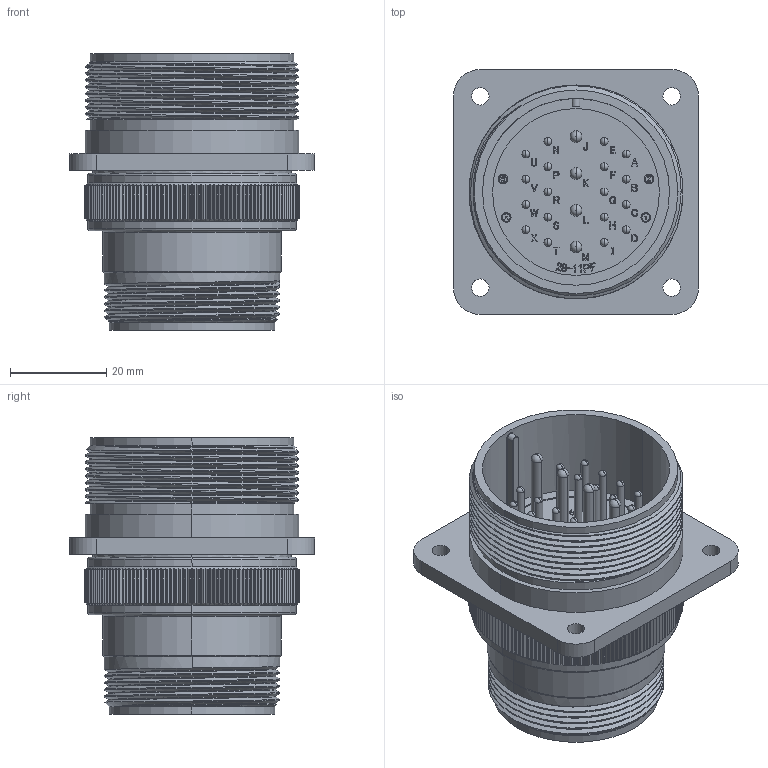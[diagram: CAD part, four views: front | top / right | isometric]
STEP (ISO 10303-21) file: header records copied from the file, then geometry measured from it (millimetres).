
FILE_DESCRIPTION (( 'STEP AP203' ), '1' );
FILE_NAME ('DMS3100A28-11P.STEP', '2017-11-13T01:10:43', ( '' ), ( '' ), 'SwSTEP 2.0', 'SolidWorks 2015', '' );
FILE_SCHEMA (( 'CONFIG_CONTROL_DESIGN' ));
Length unit declared in the file: millimetre
Products named in the file (1): DMS3100A28-11P
Bounding box: 50.8 x 50.8 x 57.36 mm (x, y, z)
Volume: 36717 mm3; surface area: 27036.3 mm2
Topology: 1 solids, 1 shells, 2471 faces, 6813 edges, 4419 vertices
Faces by surface type: cylinder 1126, plane 964, bspline 246, cone 57, torus 42, sphere 36
Entity records: 95523 total; most frequent: CARTESIAN_POINT 37495, ORIENTED_EDGE 13482, DIRECTION 9913, EDGE_CURVE 6741, VERTEX_POINT 4419, AXIS2_PLACEMENT_3D 3305, LINE 3303, VECTOR 3303
